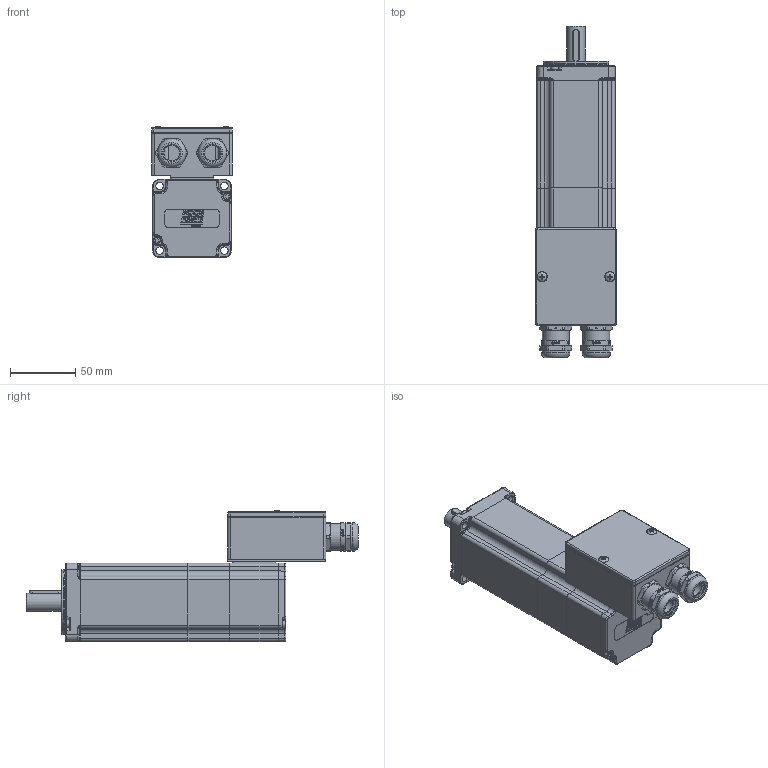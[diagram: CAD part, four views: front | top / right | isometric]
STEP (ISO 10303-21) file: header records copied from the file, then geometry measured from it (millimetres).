
FILE_DESCRIPTION(/* description */ ('Unknown'),/* implementation_level */ '2;1');
FILE_NAME(/* name */ 'TC4-60.2B LV M1 FRENO MORS Q0C151',/* time_stamp */ '2026-06-09T11:50:41+02:00',/* author */ ('Unknown'),/* organization */ ('Unknown'),/* preprocessor_version */ 'ST-DEVELOPER v19.4',/* originating_system */ 'Solid Edge',/* authorisation */ 'Unknown');
FILE_SCHEMA (('AUTOMOTIVE_DESIGN {1 0 10303 214 3 1 1}'));
Products named in the file (24): Q0C151 2B FRENO VUOTO M1; 003103040224; 005911000203; 005119001310; 007303000700; Albero TC4 60 H41 FRENO LV 2; 005911000503; 003107003285; 005008000740_oa_0; 003155002207; 005911000492; 005911000495; 003151003179; 003251040722; 007303000800; 003110000040; 005113000400; 005603000160; 005603000160_Gland; 005603000160_Nut; 005603000160_Clamping insert; 005603000160_Sealing insert; 005603000160_O Ring; 003755100323
Assembly tree (32 placements, depth 3):
  Q0C151 2B FRENO VUOTO M1
    003103040224
    005911000203  x4
    005119001310
    007303000700
    Albero TC4 60 H41 FRENO LV 2
    005911000503  x2
    003107003285
    005008000740_oa_0
    003155002207
    005911000492  x2
    005911000495  x4
    003151003179
    003251040722
    007303000800
    003110000040
    005113000400
    005603000160  x2
      005603000160_Gland
      005603000160_Nut
      005603000160_Clamping insert
      005603000160_Sealing insert
      005603000160_O Ring
    003755100323
Bounding box: 62 x 254.17 x 100.3 mm (x, y, z)
Volume: 283478.8 mm3; surface area: 186520 mm2
Topology: 37 solids, 37 shells, 2743 faces, 6984 edges, 4506 vertices
Faces by surface type: plane 1611, cylinder 623, cone 189, bspline 161, torus 150, sphere 9
Full cylindrical faces by diameter (mm): 2.013 x8, 2.459 x23, 2.5 x1, 2.7 x4, 3 x6, 3.2 x1, 3.242 x7, 3.5 x16, 3.9 x2, 4 x4, 4.134 x1, 4.25 x4, 4.5 x4, 5 x12, 5.5 x6, 5.8 x4, 7 x4, 7.5 x2, 8 x2, 10 x1, 12 x3, 12.2 x2, 12.3 x2, 14 x3, 14.1 x4, 14.5 x1, 14.99 x1, 15 x1, 16.3 x4, 17.1 x4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
Entity records: 73901 total; most frequent: CARTESIAN_POINT 16297, DIRECTION 9964, ORIENTED_EDGE 9840, EDGE_CURVE 4920, AXIS2_PLACEMENT_3D 3635, VERTEX_POINT 3324, LINE 2694, VECTOR 2694
